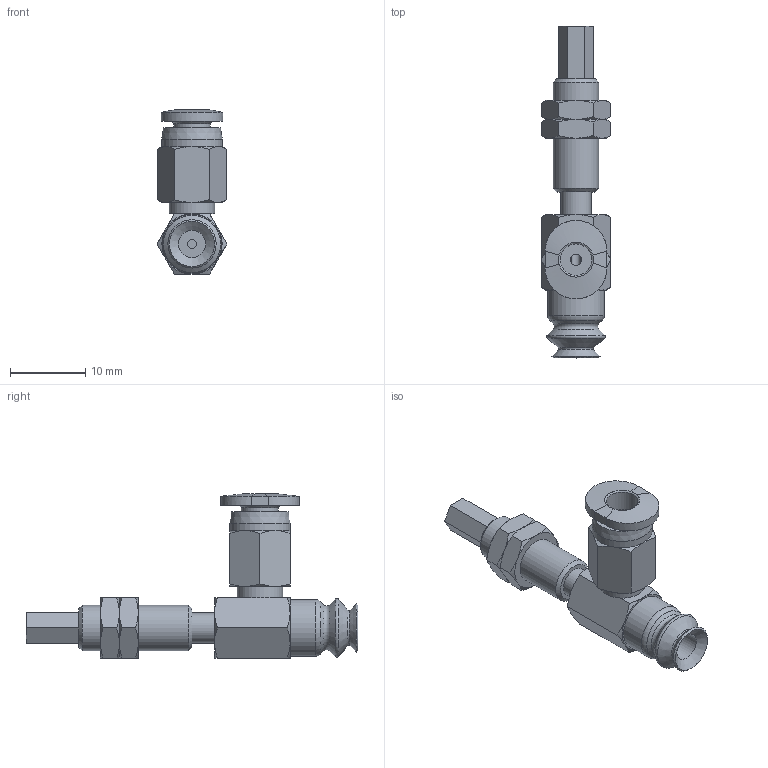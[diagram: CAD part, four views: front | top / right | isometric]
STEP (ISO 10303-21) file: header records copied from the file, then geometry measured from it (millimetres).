
FILE_DESCRIPTION(('STEP AP203'),'1');
FILE_NAME('-O.stp','2025-04-23T07:01:49',(' '),(' '),'Spatial InterOp 3D',' ',' ');
FILE_SCHEMA(('CONFIG_CONTROL_DESIGN'));
Length unit declared in the file: millimetre
Products named in the file (7): BNABPJYS-6-3-※-O; CONNECTOR_S-6-3; NUT-NAPJ-6-3-s; NAPJTS-6-3-FBODY; NAPJTS-6-3-MBODY; BPJG-6-※; PC-C_04-M3
Assembly tree (7 placements, depth 2):
  BNABPJYS-6-3-※-O
    CONNECTOR_S-6-3
    NUT-NAPJ-6-3-s  x2
    NAPJTS-6-3-FBODY
    NAPJTS-6-3-MBODY
    BPJG-6-※
    PC-C_04-M3
Bounding box: 9.24 x 44 x 21.77 mm (x, y, z)
Volume: 1481.7 mm3; surface area: 3009 mm2
Topology: 6 solids, 8 shells, 185 faces, 391 edges, 234 vertices
Faces by surface type: plane 72, cone 71, cylinder 24, torus 11, bspline 4, revolution 3
Full cylindrical faces by diameter (mm): 1.2 x1, 2.459 x2, 2.5 x2, 3 x2, 3.64 x1, 4 x4, 4.9 x1, 5.188 x2, 6 x4, 6.1 x1, 7.5 x1, 8 x1
Entity records: 4692 total; most frequent: CARTESIAN_POINT 1256, DIRECTION 645, ORIENTED_EDGE 552, AXIS2_PLACEMENT_3D 284, EDGE_CURVE 277, EDGE_LOOP 238, VERTEX_POINT 193, FACE_OUTER_BOUND 134
